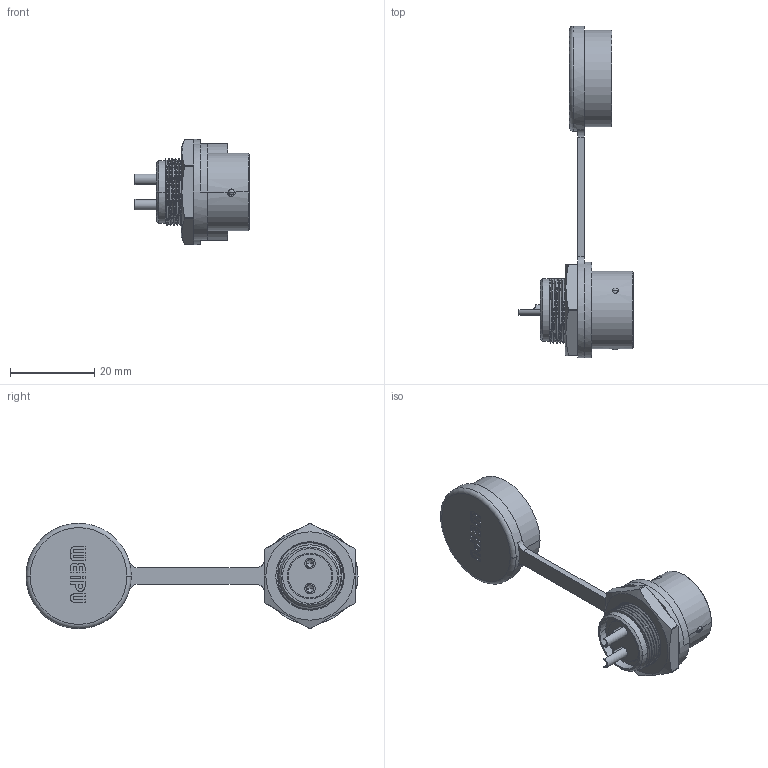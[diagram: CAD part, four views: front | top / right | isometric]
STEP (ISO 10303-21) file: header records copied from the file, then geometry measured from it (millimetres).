
FILE_DESCRIPTION((''),'2;1');
FILE_NAME('SF1612_S10','2017-11-25T',('Administrator'),(''),'PRO/ENGINEER BY PARAMETRIC TECHNOLOGY CORPORATION, 2013150','PRO/ENGINEER BY PARAMETRIC TECHNOLOGY CORPORATION, 2013150','');
FILE_SCHEMA(('CONFIG_CONTROL_DESIGN'));
Length unit declared in the file: millimetre
Products named in the file (1): SF1612_S10
Bounding box: 27.1 x 78.9 x 25 mm (x, y, z)
Volume: 7629.5 mm3; surface area: 6145.9 mm2
Topology: 1 solids, 1 shells, 253 faces, 665 edges, 414 vertices
Faces by surface type: plane 108, cylinder 72, bspline 35, cone 22, sphere 12, torus 4
Entity records: 17311 total; most frequent: CARTESIAN_POINT 11425, ORIENTED_EDGE 1294, DIRECTION 1083, EDGE_CURVE 647, VERTEX_POINT 414, AXIS2_PLACEMENT_3D 392, VECTOR 299, LINE 299
